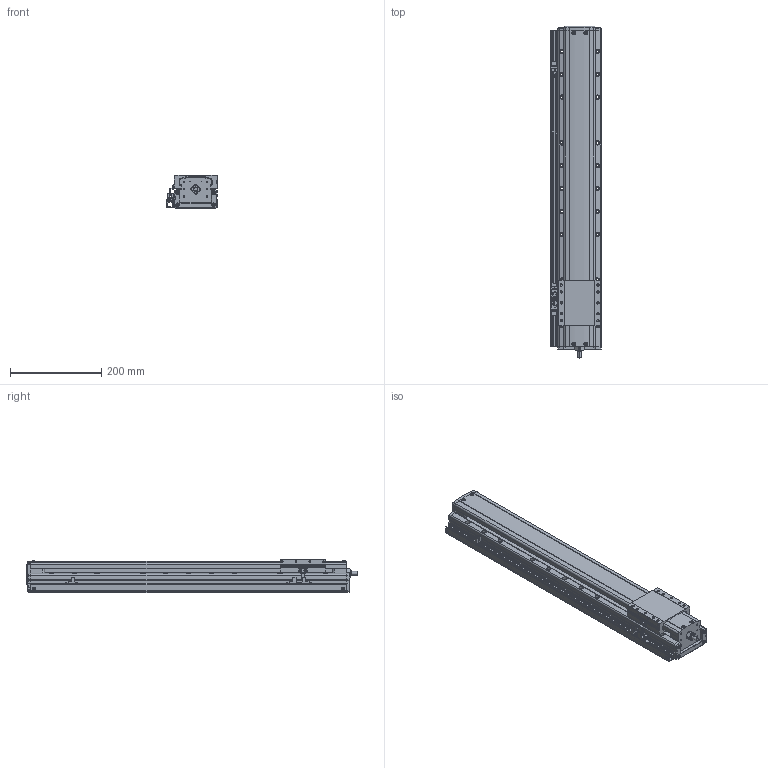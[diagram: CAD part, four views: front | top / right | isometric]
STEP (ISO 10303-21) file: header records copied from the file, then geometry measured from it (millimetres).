
FILE_DESCRIPTION(('STEP AP214'),'1');
FILE_NAME('Z:/Web/3D/PSA95/STP/PSA95-500 (3D)/PSA95ㅁㅁ-500+3SL.stp','2014-07-03T00:22:40',(' '),(' '),'Spatial InterOp 3D',' ',' ');
FILE_SCHEMA(('automotive_design'));
Length unit declared in the file: millimetre
Products named in the file (36): BASE; RRCV; 스크루 : Round - M4.0 x 10.0; 너트 : Square - M10.0 x 220.7419; RR1500; FRCV-090; 스크루 : Round - M4.0 x 6.0; SLBL-PA90; EE-SX674; SBK-SX674-352; 스크루 : Round - M3.0 x 6.0; M3.0 x 6.0; SRL-16x17-380L; SGD-PA95; 스크루 : Round - M3.0 x 8.0
Bounding box: 111 x 726 x 74 mm (x, y, z)
Volume: 3871731.5 mm3; surface area: 479559.9 mm2
Topology: 36 solids, 36 shells, 2320 faces, 6218 edges, 3998 vertices
Faces by surface type: plane 1364, cylinder 663, cone 205, sphere 50, bspline 24, torus 14
Entity records: 93425 total; most frequent: CARTESIAN_POINT 15643, DIRECTION 12286, ORIENTED_EDGE 12188, EDGE_CURVE 6094, LINE 4216, VECTOR 4216, AXIS2_PLACEMENT_3D 4035, VERTEX_POINT 3998
